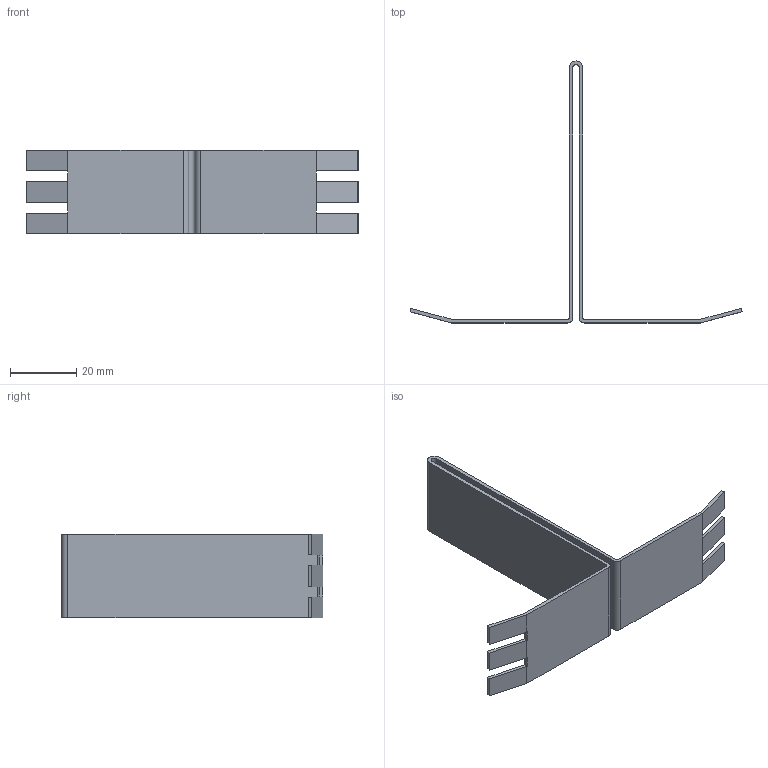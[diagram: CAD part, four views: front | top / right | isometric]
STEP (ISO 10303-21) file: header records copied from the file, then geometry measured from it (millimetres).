
FILE_DESCRIPTION((''),'1');
FILE_NAME('1','2001-04-18T',('jlue'),(''),'PRO/ENGINEER BY PARAMETRIC TECHNOLOGY CORPORATION, 9846','PRO/ENGINEER BY PARAMETRIC TECHNOLOGY CORPORATION, 9846','');
FILE_SCHEMA(('CONFIG_CONTROL_DESIGN'));
Length unit declared in the file: inch
Products named in the file (1): 1
Bounding box: 100.43 x 79.25 x 25.4 mm (x, y, z)
Surface area: 13343.3 mm2 (no closed solid volume)
Topology: 0 solids, 0 shells, 46 faces, 248 edges, 248 vertices
Faces by surface type: plane 40, cylinder 6
Entity records: 1248 total; most frequent: COMPOSITE_CURVE_SEGMENT 248, DIRECTION 226, CARTESIAN_POINT 176, TRIMMED_CURVE 122, VECTOR 110, LINE 110, AXIS2_PLACEMENT_3D 58, CURVE_BOUNDED_SURFACE 46
